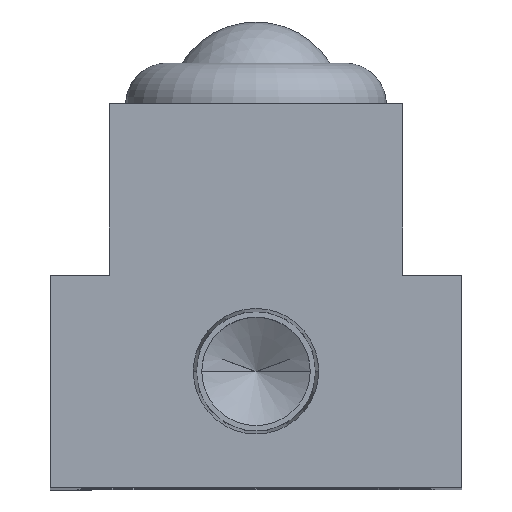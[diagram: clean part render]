
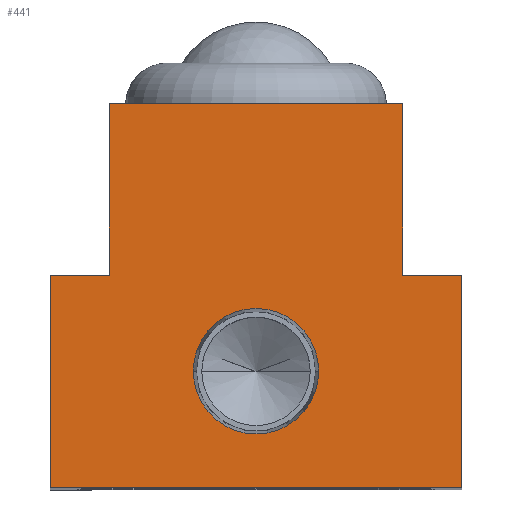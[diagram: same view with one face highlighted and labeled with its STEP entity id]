
A CAD part, top view. The second image highlights one B-rep face of the part: STEP entity #441.
In plain terms, the highlighted planar face has unit normal (0, 0, 1).
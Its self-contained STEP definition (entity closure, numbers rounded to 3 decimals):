
#33 = VECTOR ( 'NONE', #797, 1000. ) ;
#42 = DIRECTION ( 'NONE',  ( 0., -1., 0. ) ) ;
#48 = VERTEX_POINT ( 'NONE', #603 ) ;
#51 = VECTOR ( 'NONE', #42, 1000. ) ;
#88 = ORIENTED_EDGE ( 'NONE', *, *, #1978, .F. ) ;
#150 = ORIENTED_EDGE ( 'NONE', *, *, #2302, .T. ) ;
#152 = EDGE_CURVE ( 'NONE', #156, #1005, #645, .T. ) ;
#156 = VERTEX_POINT ( 'NONE', #1929 ) ;
#157 = DIRECTION ( 'NONE',  ( 0., 1., 0. ) ) ;
#235 = CARTESIAN_POINT ( 'NONE',  ( -10.7, 28., 0. ) ) ;
#338 = CIRCLE ( 'NONE', #2320, 4.574 ) ;
#340 = LINE ( 'NONE', #2028, #719 ) ;
#376 = DIRECTION ( 'NONE',  ( 0., 0., 1. ) ) ;
#384 = CARTESIAN_POINT ( 'NONE',  ( -10.7, 15.5, 0. ) ) ;
#413 = CARTESIAN_POINT ( 'NONE',  ( -15., 0., 0. ) ) ;
#441 = ADVANCED_FACE ( 'NONE', ( #1899, #870 ), #926, .T. ) ;
#461 = AXIS2_PLACEMENT_3D ( 'NONE', #826, #2114, #1010 ) ;
#473 = CARTESIAN_POINT ( 'NONE',  ( -10.7, 15.5, 0. ) ) ;
#517 = DIRECTION ( 'NONE',  ( 0., 0., 1. ) ) ;
#532 = LINE ( 'NONE', #2065, #33 ) ;
#542 = LINE ( 'NONE', #413, #2005 ) ;
#549 = ORIENTED_EDGE ( 'NONE', *, *, #579, .T. ) ;
#567 = ORIENTED_EDGE ( 'NONE', *, *, #639, .F. ) ;
#579 = EDGE_CURVE ( 'NONE', #1380, #1874, #1631, .T. ) ;
#603 = CARTESIAN_POINT ( 'NONE',  ( 15., 15.5, 0. ) ) ;
#630 = AXIS2_PLACEMENT_3D ( 'NONE', #1475, #376, #1662 ) ;
#639 = EDGE_CURVE ( 'NONE', #1069, #1759, #2379, .T. ) ;
#645 = LINE ( 'NONE', #1191, #2046 ) ;
#719 = VECTOR ( 'NONE', #749, 1000. ) ;
#749 = DIRECTION ( 'NONE',  ( -1., 0., 0. ) ) ;
#791 = CARTESIAN_POINT ( 'NONE',  ( 15., 0., 0. ) ) ;
#793 = DIRECTION ( 'NONE',  ( -1., 0., 0. ) ) ;
#797 = DIRECTION ( 'NONE',  ( 1., 0., 0. ) ) ;
#826 = CARTESIAN_POINT ( 'NONE',  ( 0., 8.5, 0. ) ) ;
#852 = ORIENTED_EDGE ( 'NONE', *, *, #1542, .T. ) ;
#870 = FACE_OUTER_BOUND ( 'NONE', #2158, .T. ) ;
#889 = LINE ( 'NONE', #1255, #1816 ) ;
#890 = ORIENTED_EDGE ( 'NONE', *, *, #901, .T. ) ;
#901 = EDGE_CURVE ( 'NONE', #2288, #48, #889, .T. ) ;
#926 = PLANE ( 'NONE',  #630 ) ;
#1005 = VERTEX_POINT ( 'NONE', #2381 ) ;
#1010 = DIRECTION ( 'NONE',  ( 1., 0., 0. ) ) ;
#1066 = CARTESIAN_POINT ( 'NONE',  ( -10.7, 28., 0. ) ) ;
#1069 = VERTEX_POINT ( 'NONE', #1111 ) ;
#1071 = EDGE_CURVE ( 'NONE', #1874, #1984, #2007, .T. ) ;
#1111 = CARTESIAN_POINT ( 'NONE',  ( 4.574, 8.5, 0. ) ) ;
#1191 = CARTESIAN_POINT ( 'NONE',  ( 10.7, 28., 0. ) ) ;
#1251 = CARTESIAN_POINT ( 'NONE',  ( -15., 15.5, 0. ) ) ;
#1255 = CARTESIAN_POINT ( 'NONE',  ( 15., 0., 0. ) ) ;
#1370 = DIRECTION ( 'NONE',  ( 0., 1., 0. ) ) ;
#1380 = VERTEX_POINT ( 'NONE', #1066 ) ;
#1475 = CARTESIAN_POINT ( 'NONE',  ( 0., 0., 0. ) ) ;
#1509 = VECTOR ( 'NONE', #2039, 1000. ) ;
#1542 = EDGE_CURVE ( 'NONE', #48, #156, #340, .T. ) ;
#1614 = CARTESIAN_POINT ( 'NONE',  ( 0., 8.5, 0. ) ) ;
#1631 = LINE ( 'NONE', #235, #51 ) ;
#1660 = CARTESIAN_POINT ( 'NONE',  ( -15., 0., 0. ) ) ;
#1662 = DIRECTION ( 'NONE',  ( 1., 0., 0. ) ) ;
#1680 = EDGE_CURVE ( 'NONE', #1984, #2213, #542, .T. ) ;
#1701 = EDGE_CURVE ( 'NONE', #1005, #1380, #1889, .T. ) ;
#1713 = CARTESIAN_POINT ( 'NONE',  ( -10.7, 28., 0. ) ) ;
#1755 = ORIENTED_EDGE ( 'NONE', *, *, #152, .T. ) ;
#1759 = VERTEX_POINT ( 'NONE', #2278 ) ;
#1809 = DIRECTION ( 'NONE',  ( 1., 0., 0. ) ) ;
#1816 = VECTOR ( 'NONE', #157, 1000. ) ;
#1853 = ORIENTED_EDGE ( 'NONE', *, *, #1680, .T. ) ;
#1874 = VERTEX_POINT ( 'NONE', #473 ) ;
#1883 = DIRECTION ( 'NONE',  ( 0., -1., 0. ) ) ;
#1889 = LINE ( 'NONE', #1713, #2373 ) ;
#1899 = FACE_BOUND ( 'NONE', #2301, .T. ) ;
#1929 = CARTESIAN_POINT ( 'NONE',  ( 10.7, 15.5, 0. ) ) ;
#1978 = EDGE_CURVE ( 'NONE', #1759, #1069, #338, .T. ) ;
#1984 = VERTEX_POINT ( 'NONE', #1251 ) ;
#2005 = VECTOR ( 'NONE', #1883, 1000. ) ;
#2007 = LINE ( 'NONE', #384, #1509 ) ;
#2028 = CARTESIAN_POINT ( 'NONE',  ( 10.7, 15.5, 0. ) ) ;
#2039 = DIRECTION ( 'NONE',  ( -1., 0., 0. ) ) ;
#2046 = VECTOR ( 'NONE', #1370, 1000. ) ;
#2065 = CARTESIAN_POINT ( 'NONE',  ( 15., 0., 0. ) ) ;
#2114 = DIRECTION ( 'NONE',  ( 0., 0., 1. ) ) ;
#2158 = EDGE_LOOP ( 'NONE', ( #1755, #2307, #549, #2263, #1853, #150, #890, #852 ) ) ;
#2213 = VERTEX_POINT ( 'NONE', #1660 ) ;
#2263 = ORIENTED_EDGE ( 'NONE', *, *, #1071, .T. ) ;
#2278 = CARTESIAN_POINT ( 'NONE',  ( -4.574, 8.5, 0. ) ) ;
#2288 = VERTEX_POINT ( 'NONE', #791 ) ;
#2301 = EDGE_LOOP ( 'NONE', ( #567, #88 ) ) ;
#2302 = EDGE_CURVE ( 'NONE', #2213, #2288, #532, .T. ) ;
#2307 = ORIENTED_EDGE ( 'NONE', *, *, #1701, .T. ) ;
#2320 = AXIS2_PLACEMENT_3D ( 'NONE', #1614, #517, #1809 ) ;
#2373 = VECTOR ( 'NONE', #793, 1000. ) ;
#2379 = CIRCLE ( 'NONE', #461, 4.574 ) ;
#2381 = CARTESIAN_POINT ( 'NONE',  ( 10.7, 28., 0. ) ) ;
